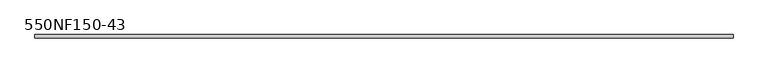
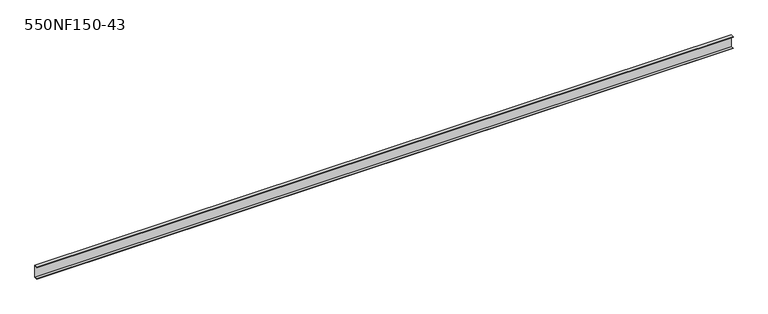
"""IFC4 building model written with IfcOpenShell, lengths in millimetres: beam geometry, BIMSF-SSMA-S : 550NF150-43."""

from ifc_helpers import new_model, si_unit, frame, origin, place, context, project, spatial, polyline, outline, extrude, source, transform, mapped, element, save


def beam_550nf150_43_ba83b193(model_context):
    return source(origin(), model_context, "Body", "SweptSolid", [
        extrude(outline(polyline([(19.05, 69.85), (19.05, -69.85), (-19.05, -69.85), (-19.05, -65.0748), (-17.9003158, -65.0748), (-17.9003158, -68.7003158), (17.9003158, -68.7003158), (17.9003158, 68.7003158), (-17.9003158, 68.7003158), (-17.9003158, 65.0748), (-19.05, 65.0748), (-19.05, 69.85), (19.05, 69.85)])), frame((-3950.3303618, 0.0, 0.0), z_axis=(1.0, 0.0, 0.0), x_axis=(0.0, 1.0, 0.0)), (0.0, 0.0, 1.0), 7900.6607235),
    ])


if __name__ == "__main__":
    model = new_model("IFC4")
    model_context = context("Model", 3, world=origin())
    ifc_project = project(units=[si_unit("LENGTHUNIT", "METRE", prefix="MILLI")], contexts=[model_context])
    site = spatial("IfcSite", under=ifc_project)
    building = spatial("IfcBuilding", under=site)
    placement = place(None, origin())
    beam_550nf150_43_shape = beam_550nf150_43_ba83b193(model_context)
    element("IfcBeam", 1, ObjectType="BIMSF-SSMA-S : 550NF150-43", at=placement, inside=building, context=model_context, shape_type="MappedRepresentation", body=[
        mapped(beam_550nf150_43_shape, transform((0.0, 0.0, 0.0), x_axis=(1.0, 0.0, 0.0), y_axis=(0.0, 1.0, 0.0), z_axis=(0.0, 0.0, 1.0))),
    ])
    save(model, "model.ifc")
